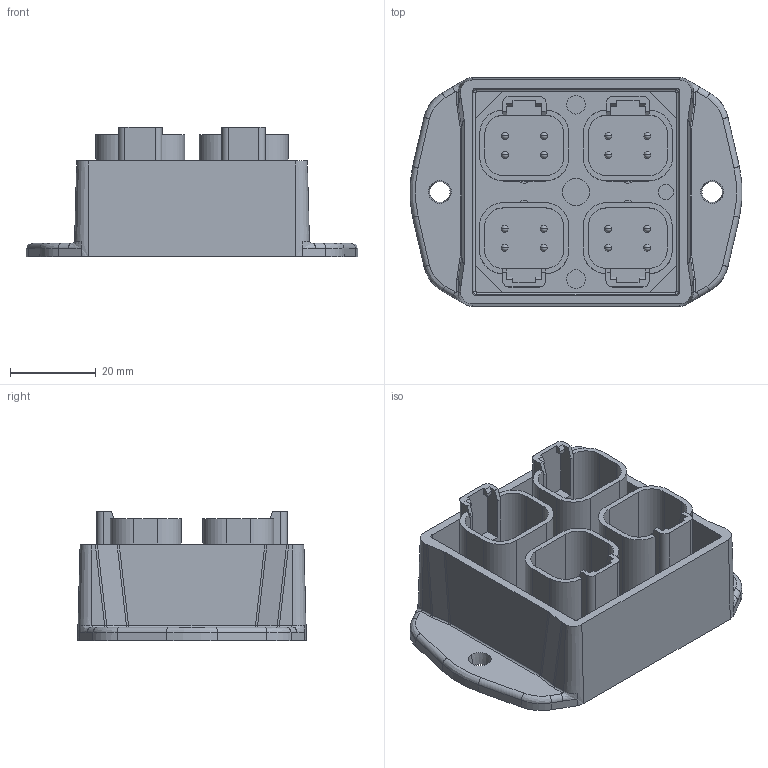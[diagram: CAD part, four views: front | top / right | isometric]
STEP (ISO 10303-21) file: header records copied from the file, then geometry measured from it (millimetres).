
FILE_DESCRIPTION (( 'STEP AP214' ), '1' );
FILE_NAME ('500188_Production_Variant.STEP', '2026-03-31T16:01:33', ( '' ), ( '' ), 'SwSTEP 2.0', 'SolidWorks 2025', '' );
FILE_SCHEMA (( 'AUTOMOTIVE_DESIGN' ));
Length unit declared in the file: inch
Products named in the file (4): BX-2208BXX; 500188_Production_Variant; 500188_Production_Variant_BOARD; MT15-4PNF-NI_CMP-007-000066-8
Assembly tree (6 placements, depth 2):
  500188_Production_Variant
    500188_Production_Variant_BOARD
    BX-2208BXX
    MT15-4PNF-NI_CMP-007-000066-8  x4
Bounding box: 77.41 x 53.37 x 30.23 mm (x, y, z)
Volume: 30426.9 mm3; surface area: 35557 mm2
Topology: 6 solids, 6 shells, 677 faces, 1902 edges, 1226 vertices
Faces by surface type: plane 291, cylinder 274, sphere 64, cone 26, bspline 22
Entity records: 16357 total; most frequent: CARTESIAN_POINT 6176, ORIENTED_EDGE 1556, DIRECTION 1498, EDGE_CURVE 778, AXIS2_PLACEMENT_3D 551, VERTEX_POINT 511, LINE 396, VECTOR 396
